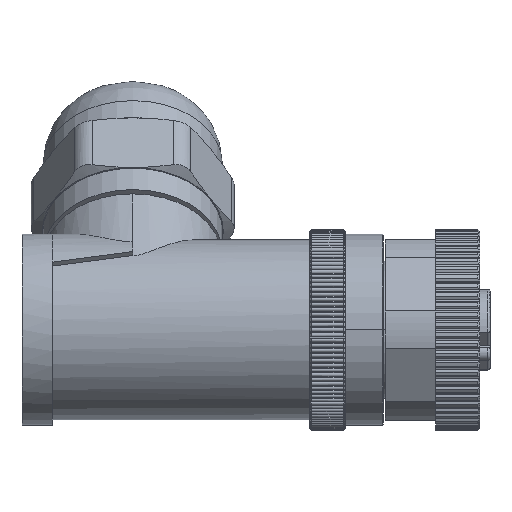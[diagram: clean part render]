
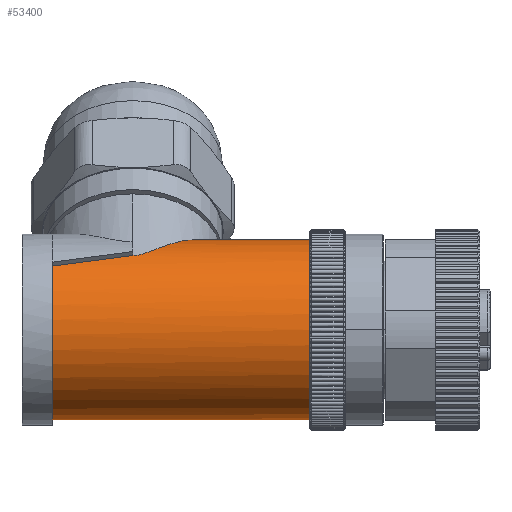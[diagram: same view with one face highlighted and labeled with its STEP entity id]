
A CAD part, left-side view. The second image highlights one B-rep face of the part: STEP entity #53400.
In plain terms, the highlighted cylindrical face has radius 8.95 mm (diameter 17.9 mm), a partial arc.
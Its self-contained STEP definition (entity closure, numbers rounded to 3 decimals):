
#11315=CARTESIAN_POINT('',(0.,16.385,
8.95));
#12227=CARTESIAN_POINT('',(0.,4.9,0.));
#12228=DIRECTION('',(0.,-1.,0.));
#12229=DIRECTION('',(0.,0.,1.));
#12230=AXIS2_PLACEMENT_3D('',#12227,#12228,#12229);
#12232=DIRECTION('',(0.,-1.,0.));
#12233=VECTOR('',#12232,25.6);
#12234=CARTESIAN_POINT('',(0.,30.5,-8.95));
#12235=LINE('',#12234,#12233);
#12236=CARTESIAN_POINT('',(0.,30.5,0.));
#12237=DIRECTION('',(0.,1.,0.));
#12238=DIRECTION('',(0.,0.,-1.));
#12239=AXIS2_PLACEMENT_3D('',#12236,#12237,#12238);
#12241=CARTESIAN_POINT('',(-5.069,22.5,7.376));
#12242=CARTESIAN_POINT('',(-5.524,25.166,
7.063));
#12243=CARTESIAN_POINT('',(-5.944,27.832,
6.713));
#12244=CARTESIAN_POINT('',(-6.329,30.5,6.329));
#12246=CARTESIAN_POINT('',(-5.069,22.5,7.376));
#12247=CARTESIAN_POINT('',(-5.069,22.31,
7.376));
#12248=CARTESIAN_POINT('',(-5.012,21.924,
7.416));
#12249=CARTESIAN_POINT('',(-4.762,21.322,
7.581));
#12250=CARTESIAN_POINT('',(-4.398,20.717,
7.8));
#12251=CARTESIAN_POINT('',(-3.939,20.091,
8.043));
#12252=CARTESIAN_POINT('',(-3.387,19.434,
8.293));
#12253=CARTESIAN_POINT('',(-2.737,18.738,
8.532));
#12254=CARTESIAN_POINT('',(-1.974,17.997,
8.743));
#12255=CARTESIAN_POINT('',(-1.081,17.214,
8.902));
#12256=CARTESIAN_POINT('',(-0.379,16.662,
8.95));
#12257=CARTESIAN_POINT('',(0.,16.385,
8.95));
#12259=DIRECTION('',(0.,-1.,0.));
#12260=VECTOR('',#12259,11.485);
#12261=CARTESIAN_POINT('',(0.,16.385,
8.95));
#12262=LINE('',#12261,#12260);
#39514=VERTEX_POINT('',#11315);
#39521=CARTESIAN_POINT('',(-6.329,30.5,6.329));
#39522=VERTEX_POINT('',#39521);
#39528=CARTESIAN_POINT('',(-5.069,22.5,7.376));
#39530=VERTEX_POINT('',#39528);
#39535=CARTESIAN_POINT('',(0.,30.5,-8.95));
#39536=VERTEX_POINT('',#39535);
#43450=CARTESIAN_POINT('',(0.,4.9,-8.95));
#43451=VERTEX_POINT('',#43450);
#43452=CARTESIAN_POINT('',(0.,4.9,8.95));
#43453=VERTEX_POINT('',#43452);
#53384=CARTESIAN_POINT('',(0.,33.5,0.));
#53385=DIRECTION('',(0.,-1.,0.));
#53386=DIRECTION('',(0.,0.,-1.));
#53387=AXIS2_PLACEMENT_3D('',#53384,#53385,#53386);
#53388=CYLINDRICAL_SURFACE('',#53387,8.95);
#53389=ORIENTED_EDGE('',*,*,#51010,.T.);
#53390=ORIENTED_EDGE('',*,*,#52350,.F.);
#53392=ORIENTED_EDGE('',*,*,#53391,.T.);
#53394=ORIENTED_EDGE('',*,*,#53393,.F.);
#53396=ORIENTED_EDGE('',*,*,#53395,.T.);
#53397=ORIENTED_EDGE('',*,*,#52340,.T.);
#53398=EDGE_LOOP('',(#53389,#53390,#53392,#53394,#53396,#53397));
#53399=FACE_OUTER_BOUND('',#53398,.F.);
#53400=ADVANCED_FACE('',(#53399),#53388,.T.);
#12231=CIRCLE('',#12230,8.95);
#12240=CIRCLE('',#12239,8.95);
#12245=B_SPLINE_CURVE_WITH_KNOTS('',3,(#12241,#12242,#12243,#12244),
.UNSPECIFIED.,.F.,.F.,(4,4),(0.,1.),.UNSPECIFIED.);
#12258=B_SPLINE_CURVE_WITH_KNOTS('',3,(#12246,#12247,#12248,#12249,#12250,
#12251,#12252,#12253,#12254,#12255,#12256,#12257),.UNSPECIFIED.,.F.,.F.,(4,1,1,
1,1,1,1,1,1,4),(0.,0.111,0.222,0.333,
0.444,0.556,0.667,0.778,
0.889,1.),.UNSPECIFIED.);
#51010=EDGE_CURVE('',#43453,#43451,#12231,.T.);
#52340=EDGE_CURVE('',#39514,#43453,#12262,.T.);
#52350=EDGE_CURVE('',#39536,#43451,#12235,.T.);
#53391=EDGE_CURVE('',#39536,#39522,#12240,.T.);
#53393=EDGE_CURVE('',#39530,#39522,#12245,.T.);
#53395=EDGE_CURVE('',#39530,#39514,#12258,.T.);
